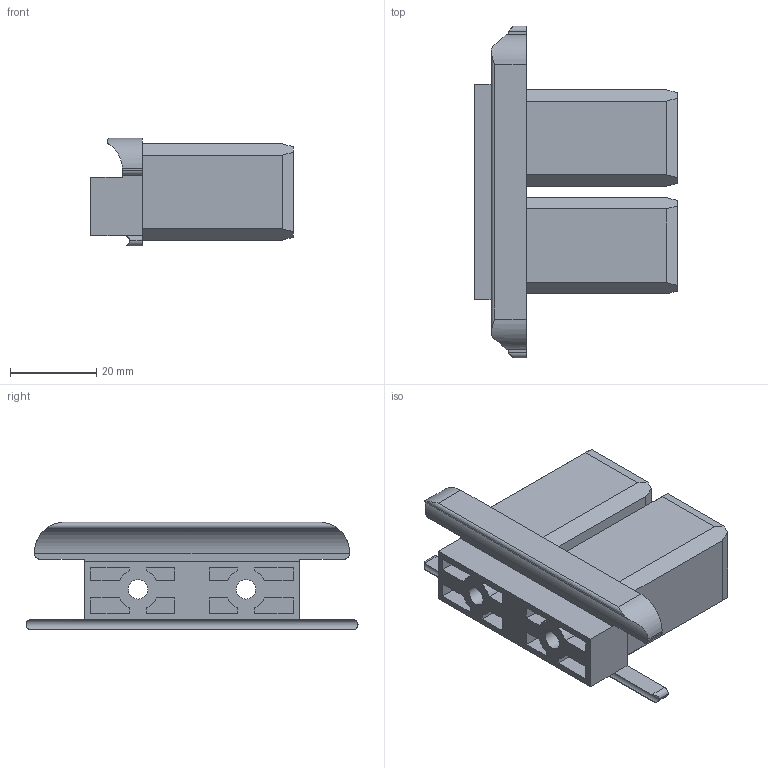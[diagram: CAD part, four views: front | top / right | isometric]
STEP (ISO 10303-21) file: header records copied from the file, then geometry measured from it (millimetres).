
FILE_DESCRIPTION (( 'STEP AP214' ), '1' );
FILE_NAME ('L15852.step', '2024-12-03T16:20:10', ( '' ), ( '' ), 'SwSTEP 2.0', 'SolidWorks 2023', '' );
FILE_SCHEMA (( 'AUTOMOTIVE_DESIGN' ));
Length unit declared in the file: millimetre
Products named in the file (1): L15852
Bounding box: 47 x 77 x 25 mm (x, y, z)
Volume: 29378.7 mm3; surface area: 19218.6 mm2
Topology: 1 solids, 1 shells, 145 faces, 393 edges, 262 vertices
Faces by surface type: plane 115, cylinder 30
Full cylindrical faces by diameter (mm): 4.5 x2
Entity records: 4584 total; most frequent: CARTESIAN_POINT 885, ORIENTED_EDGE 778, DIRECTION 719, EDGE_CURVE 389, LINE 331, VECTOR 331, VERTEX_POINT 260, AXIS2_PLACEMENT_3D 194
